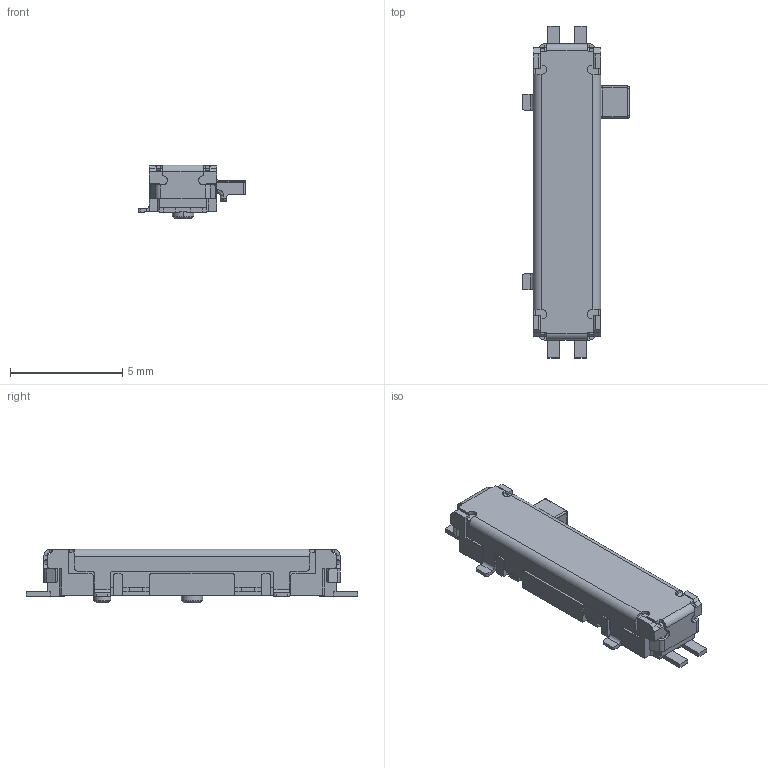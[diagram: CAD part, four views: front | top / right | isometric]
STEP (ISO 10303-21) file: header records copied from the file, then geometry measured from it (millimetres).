
FILE_DESCRIPTION(('STEP AP214'),'1');
FILE_NAME ('RS08U111Z001.STEP', '2010-10-26T03:31:07', ( 'ALPS' ), ( 'ALPS' ), 'SwSTEP 2.0', 'SolidWorks 2007', '' );
FILE_SCHEMA(('automotive_design'));
Length unit declared in the file: inch
Products named in the file (1): RS08U11AZ001
Bounding box: 4.8 x 14.8 x 2.4 mm (x, y, z)
Volume: 77.2 mm3; surface area: 184.7 mm2
Topology: 1 solids, 1 shells, 533 faces, 1473 edges, 944 vertices
Faces by surface type: plane 383, cylinder 130, cone 12, bspline 6, revolution 2
Entity records: 21227 total; most frequent: CARTESIAN_POINT 3283, ORIENTED_EDGE 2942, DIRECTION 2736, EDGE_CURVE 1471, LINE 1148, VECTOR 1148, VERTEX_POINT 944, AXIS2_PLACEMENT_3D 793
